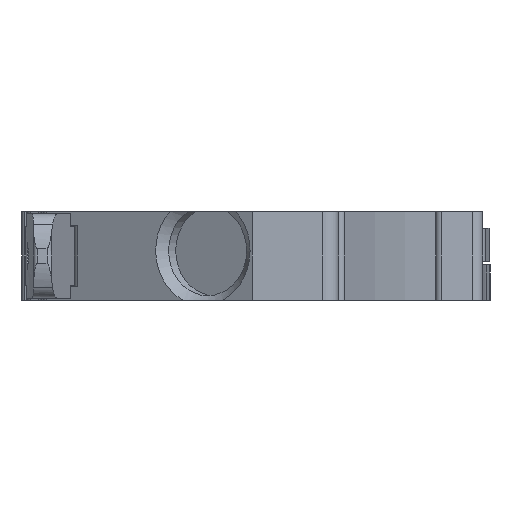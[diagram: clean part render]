
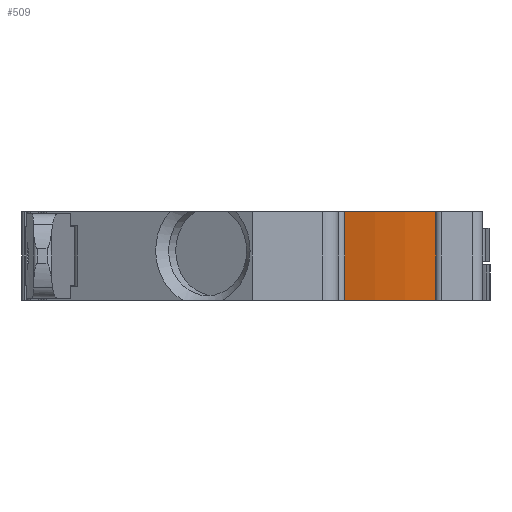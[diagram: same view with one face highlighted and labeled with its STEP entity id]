
A CAD part, left-side view. The second image highlights one B-rep face of the part: STEP entity #509.
In plain terms, the highlighted cylindrical face has radius 25 mm (diameter 50 mm), a partial arc.
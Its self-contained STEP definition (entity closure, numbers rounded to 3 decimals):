
#509 = ADVANCED_FACE( '', ( #1314 ), #1315, .T. );
#1314 = FACE_OUTER_BOUND( '', #2418, .T. );
#1315 = CYLINDRICAL_SURFACE( '', #2419, 25. );
#2418 = EDGE_LOOP( '', ( #3915, #3916, #3917, #3918 ) );
#2419 = AXIS2_PLACEMENT_3D( '', #3919, #3920, #3921 );
#3915 = ORIENTED_EDGE( '', *, *, #7271, .T. );
#3916 = ORIENTED_EDGE( '', *, *, #7272, .F. );
#3917 = ORIENTED_EDGE( '', *, *, #7273, .F. );
#3918 = ORIENTED_EDGE( '', *, *, #7274, .T. );
#3919 = CARTESIAN_POINT( '', ( -22.4, -2.47, 7.5 ) );
#3920 = DIRECTION( '', ( 0., 0., 1. ) );
#3921 = DIRECTION( '', ( -1., 0., 0. ) );
#7271 = EDGE_CURVE( '', #8984, #8985, #8986, .T. );
#7272 = EDGE_CURVE( '', #8987, #8985, #8988, .T. );
#7273 = EDGE_CURVE( '', #8989, #8987, #8990, .T. );
#7274 = EDGE_CURVE( '', #8989, #8984, #8991, .T. );
#8984 = VERTEX_POINT( '', #11371 );
#8985 = VERTEX_POINT( '', #11372 );
#8986 = CIRCLE( '', #11373, 25. );
#8987 = VERTEX_POINT( '', #11374 );
#8988 = LINE( '', #11375, #11376 );
#8989 = VERTEX_POINT( '', #11377 );
#8990 = CIRCLE( '', #11378, 25. );
#8991 = LINE( '', #11379, #11380 );
#11371 = CARTESIAN_POINT( '', ( -46.17, 5.276, 0. ) );
#11372 = CARTESIAN_POINT( '', ( -47.4, -2.47, 0. ) );
#11373 = AXIS2_PLACEMENT_3D( '', #14074, #14075, #14076 );
#11374 = CARTESIAN_POINT( '', ( -47.4, -2.47, 7.5 ) );
#11375 = CARTESIAN_POINT( '', ( -47.4, -2.47, 7.5 ) );
#11376 = VECTOR( '', #14077, 1000. );
#11377 = CARTESIAN_POINT( '', ( -46.17, 5.276, 7.5 ) );
#11378 = AXIS2_PLACEMENT_3D( '', #14078, #14079, #14080 );
#11379 = CARTESIAN_POINT( '', ( -46.17, 5.276, 7.5 ) );
#11380 = VECTOR( '', #14081, 1000. );
#14074 = CARTESIAN_POINT( '', ( -22.4, -2.47, 0. ) );
#14075 = DIRECTION( '', ( 0., 0., 1. ) );
#14076 = DIRECTION( '', ( 1., 0., 0. ) );
#14077 = DIRECTION( '', ( 0., 0., -1. ) );
#14078 = CARTESIAN_POINT( '', ( -22.4, -2.47, 7.5 ) );
#14079 = DIRECTION( '', ( 0., 0., 1. ) );
#14080 = DIRECTION( '', ( 1., 0., 0. ) );
#14081 = DIRECTION( '', ( 0., 0., -1. ) );
